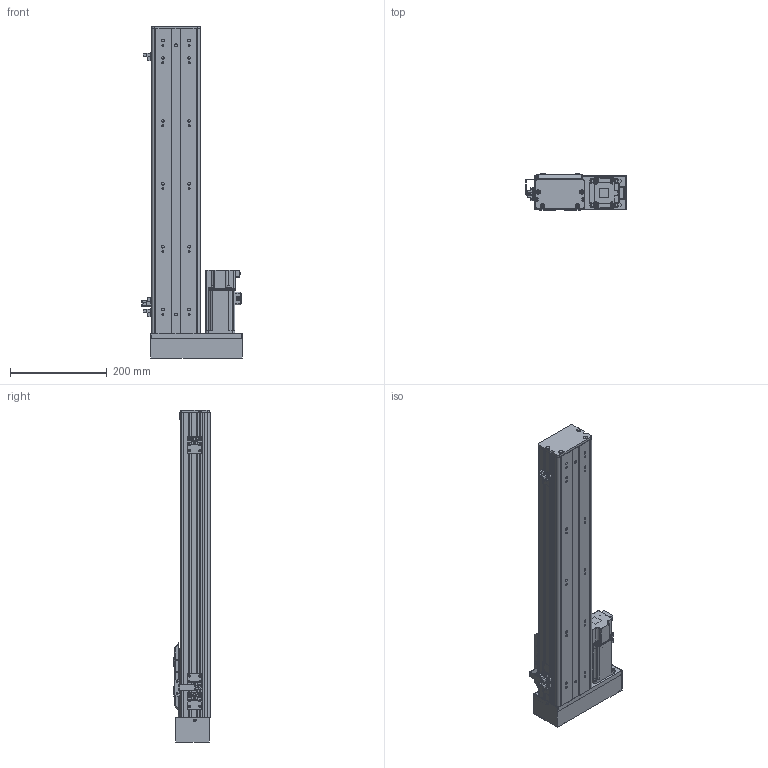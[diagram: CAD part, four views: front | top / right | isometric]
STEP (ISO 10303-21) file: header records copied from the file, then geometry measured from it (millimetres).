
FILE_DESCRIPTION (( 'STEP AP203' ), '1' );
FILE_NAME ('BOSW100-450-1610-1P-LM-M400W-O-S3（方程式2016）.step', '2020-10-10T06:55:04', ( '' ), ( '' ), 'SwSTEP 2.0', 'SolidWorks 2016', '' );
FILE_SCHEMA (( 'CONFIG_CONTROL_DESIGN' ));
Length unit declared in the file: millimetre
Products named in the file (14): BOSW&TW-100-詩湍揤沭(陔賦凳); S400W(SMA-L040); BOSW100-450-1610-1P-LM-M400W-O-S3（方程式2016）; 新结构AIMSW-100-1P-宽&高轨共用-滑动座上组件; 俋境嫖覜嘐隅啣; BOSW-100-1P-DM-450諦誧芞; 放大器内置U型微型光电传感器PM-L65; BOSW-100-1P-DM-宽轨-钢带-450客户图纸; BOSW-100-1P-DM-宽轨-侧板-450客户图纸; boS-100-LM&RM-三菱M400W马达板-宽轨; BOSW&TW-100-1P-賑雄釱欶; BOSW&TW-100-俋离覜茼え; AIMS(W)-100-LM&RM-肮祭謫欶; BOSW-100-綴裔啣
Assembly tree (19 placements, depth 2):
  BOSW100-450-1610-1P-LM-M400W-O-S3（方程式2016）
    BOSW-100-1P-DM-450諦誧芞
    BOSW-100-綴裔啣
    新结构AIMSW-100-1P-宽&高轨共用-滑动座上组件
    S400W(SMA-L040)
    BOSW&TW-100-詩湍揤沭(陔賦凳)  x2
    BOSW&TW-100-1P-賑雄釱欶
    BOSW&TW-100-俋离覜茼え
    俋境嫖覜嘐隅啣  x3
    放大器内置U型微型光电传感器PM-L65  x3
    BOSW-100-1P-DM-宽轨-侧板-450客户图纸  x2
    BOSW-100-1P-DM-宽轨-钢带-450客户图纸
    AIMS(W)-100-LM&RM-肮祭謫欶
    boS-100-LM&RM-三菱M400W马达板-宽轨
Bounding box: 207.9 x 75 x 686 mm (x, y, z)
Volume: 1632998.6 mm3; surface area: 786637.7 mm2
Topology: 19 solids, 20 shells, 2521 faces, 6651 edges, 4243 vertices
Faces by surface type: plane 1241, cylinder 794, bspline 271, cone 167, torus 36, sphere 12
Entity records: 69100 total; most frequent: CARTESIAN_POINT 20740, ORIENTED_EDGE 9842, DIRECTION 9525, EDGE_CURVE 4921, AXIS2_PLACEMENT_3D 3373, VERTEX_POINT 3145, LINE 2779, VECTOR 2779
